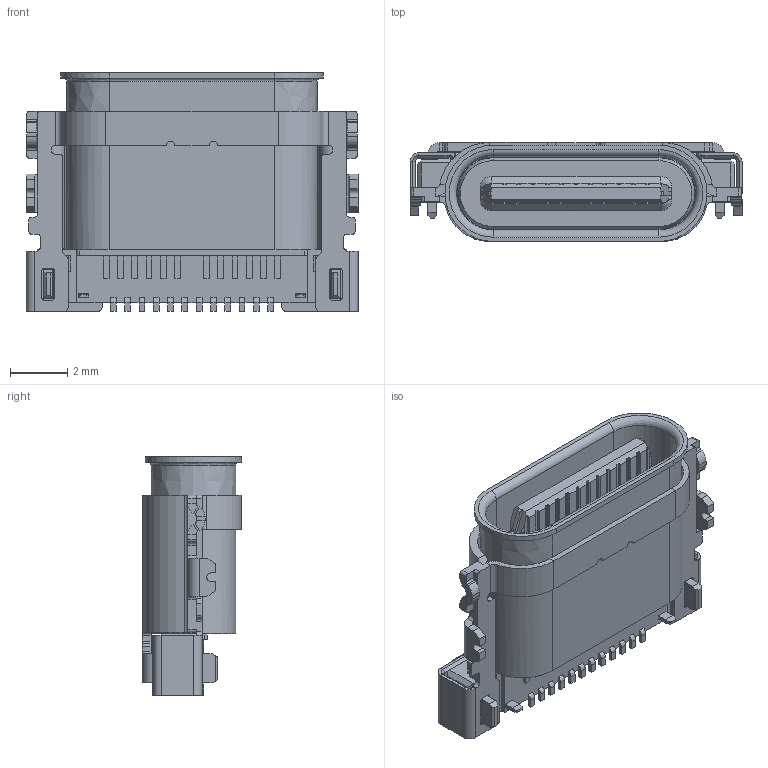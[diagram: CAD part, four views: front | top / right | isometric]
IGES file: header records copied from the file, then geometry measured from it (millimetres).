
Start section:  PTC IGES file: LG_G6_IGS.igs
Global section: file name: LG_G6_IGS.igs; native system: Pro/ENGINEER by Parametric Technology Corporation; preprocessor: 2010280; author: Administrator; organization: Unknown; date: 20220711.120527; units: millimetre
Bounding box: 11.6 x 3.46 x 8.35 mm (x, y, z)
Surface area: 623.4 mm2 (no closed solid volume)
Topology: 0 solids, 0 shells, 940 faces, 4976 edges, 4976 vertices
Faces by surface type: bspline 680, revolution 260
